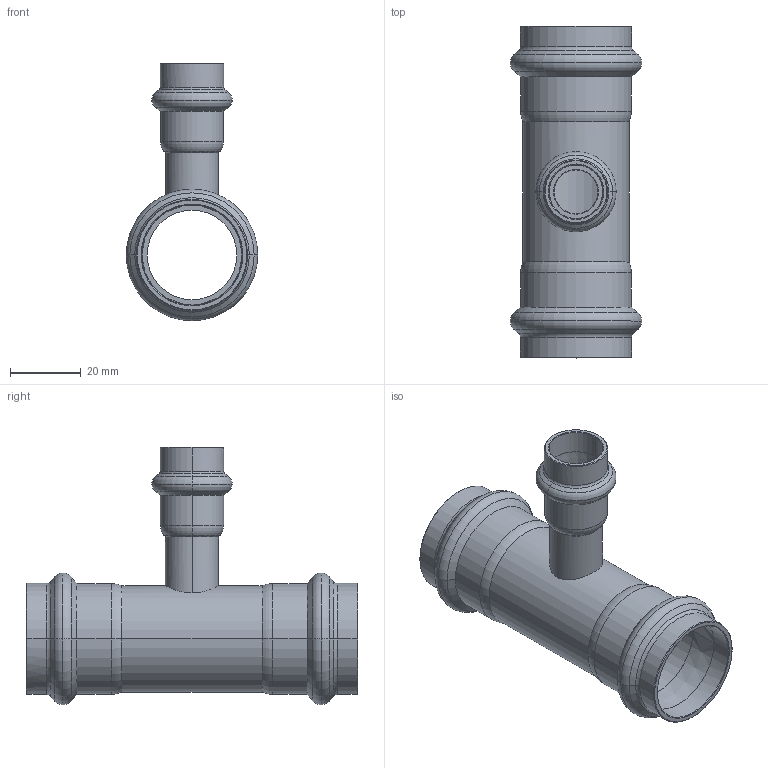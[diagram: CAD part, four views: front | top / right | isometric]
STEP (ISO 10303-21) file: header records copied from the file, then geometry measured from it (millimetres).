
FILE_DESCRIPTION(('CoCreate Modeling STEP Export'),'2;1');
FILE_NAME('8130RVW281528.stp','2013-01-31T14:38:32',(''),(''),'CoCreate Modeling STEP processor for AP214 (Solid Model)','CoCreate Modeling 17.00A 17-Jun-2010 (C) Parametric Technology GmbH','');
FILE_SCHEMA(('AUTOMOTIVE_DESIGN { 1 0 10303 214 1 1 1 1 }'));
Length unit declared in the file: millimetre
Products named in the file (2): 8130RVW281528
Assembly tree (1 placements, depth 2):
  8130RVW281528
    8130RVW281528
Bounding box: 37.2 x 93.81 x 72.79 mm (x, y, z)
Volume: 19396 mm3; surface area: 22679.5 mm2
Topology: 1 solids, 1 shells, 130 faces, 285 edges, 165 vertices
Faces by surface type: torus 42, cylinder 40, cone 36, plane 10, bspline 2
Entity records: 4897 total; most frequent: CARTESIAN_POINT 2470, ORIENTED_EDGE 570, DIRECTION 434, EDGE_CURVE 285, AXIS2_PLACEMENT_3D 179, VERTEX_POINT 165, EDGE_LOOP 142, FACE_OUTER_BOUND 130
